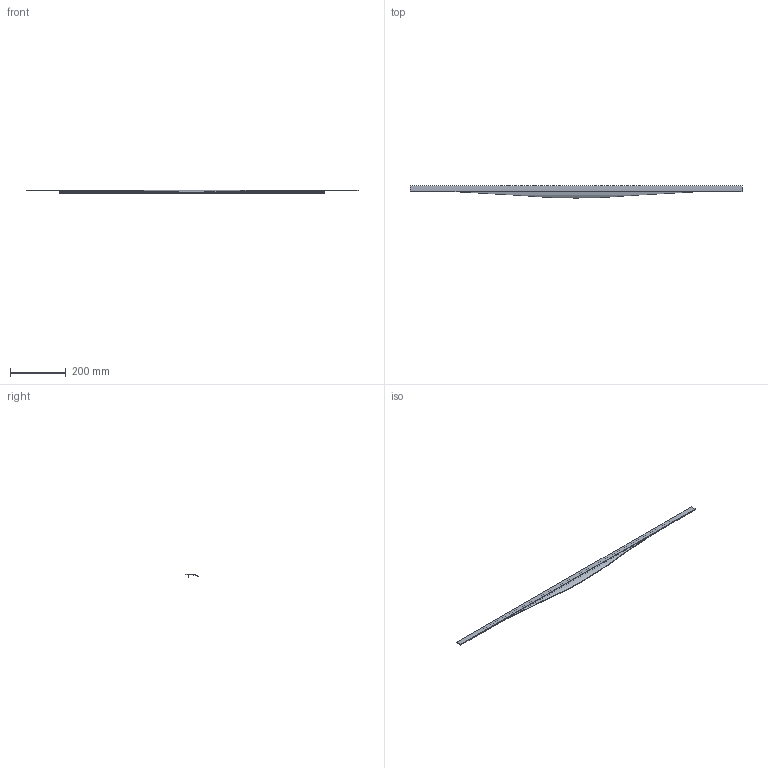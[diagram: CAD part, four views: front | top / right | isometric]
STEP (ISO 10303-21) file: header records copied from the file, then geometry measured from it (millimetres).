
FILE_DESCRIPTION( ( 'STEP AP214' ), '1' );
FILE_NAME( 'C:/Users/swati/Desktop/04-03-2016/9210062/9210063.stp', ' ', ( ' ' ), ( ' ' ), 'PSStep 15.0.47', 'PARTsolutions', ' ' );
FILE_SCHEMA( ( 'AUTOMOTIVE_DESIGN { 1 0 10303 214 1 1 1 1 }' ) );
Length unit declared in the file: millimetre
Products named in the file (2): 95 ; _
Assembly tree (1 placements, depth 2):
  95 
    _
Bounding box: 1195 x 43.67 x 14 mm (x, y, z)
Volume: 114113.6 mm3; surface area: 103237.9 mm2
Topology: 1 solids, 1 shells, 32 faces, 87 edges, 58 vertices
Faces by surface type: plane 25, cylinder 7
Entity records: 1349 total; most frequent: CARTESIAN_POINT 253, ORIENTED_EDGE 174, DIRECTION 153, EDGE_CURVE 87, LINE 73, VECTOR 73, VERTEX_POINT 58, AXIS2_PLACEMENT_3D 40
